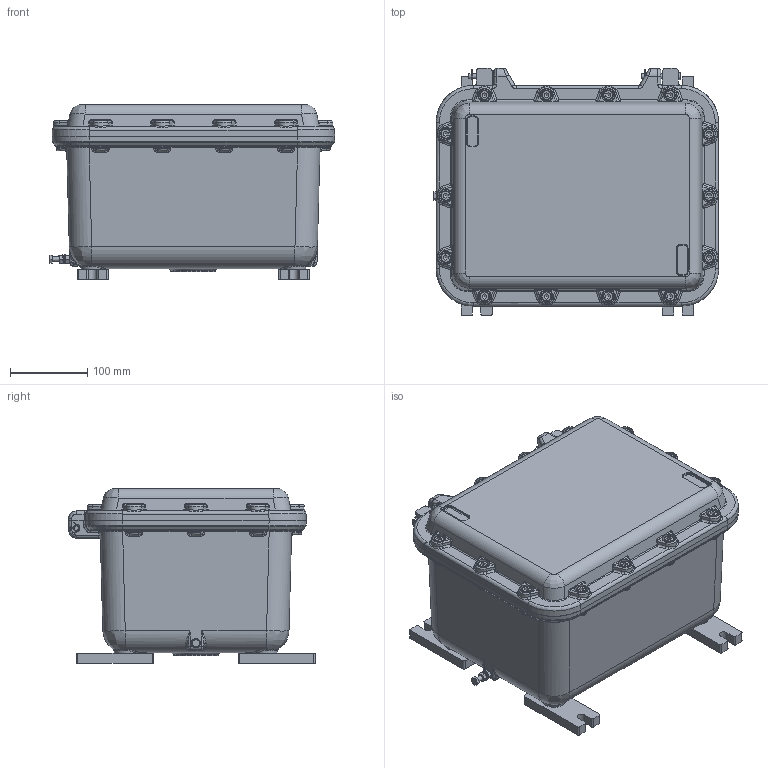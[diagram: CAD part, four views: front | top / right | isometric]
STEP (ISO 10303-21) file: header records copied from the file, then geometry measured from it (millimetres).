
FILE_DESCRIPTION(('STEP AP214'), '1');
FILE_NAME('ﾑﾌﾄ 346400 339 000 _ ﾊﾂﾌﾊ 362821 Exd (ﾂ2, ﾂ06)', '', ('UNSPECIFIED'), ('UNSPECIFIED'), 'ASCON STEP Converter 1.3', 'ASCON Math Kernel', '');
FILE_SCHEMA(('AUTOMOTIVE_DESIGN { 1 0 10303 214 3 1 1}'));
Length unit declared in the file: millimetre
Products named in the file (27): ﾑﾌﾄ 346400 339 000 ﾑﾁ; ﾑﾌﾄ 346400 339 001; ﾑﾌﾄ 346400 339 002; ﾑﾌﾄ 346400 339 004; ﾑﾌﾄ 346400 339 003
Assembly tree (82 placements, depth 2):
  ﾑﾌﾄ 346400 339 000 ﾑﾁ
    ﾑﾌﾄ 346400 339 001
    ﾑﾌﾄ 346400 339 002
    (unnamed)  x8
    (unnamed)  x2
    (unnamed)  x2
    (unnamed)  x2
    (unnamed)
    (unnamed)  x2
    (unnamed)  x14
    (unnamed)  x14
    (unnamed)  x14
    ﾑﾌﾄ 346400 339 004  x2
    ﾑﾌﾄ 346400 339 003  x4
    (unnamed)
    (unnamed)
    (unnamed)
    (unnamed)
    (unnamed)
    (unnamed)
    (unnamed)
    (unnamed)
    (unnamed)
    (unnamed)
    (unnamed)
    (unnamed)
    (unnamed)  x3
Bounding box: 368.53 x 319.05 x 226 mm (x, y, z)
Volume: 6170740.9 mm3; surface area: 1001463.7 mm2
Topology: 82 solids, 82 shells, 2907 faces, 7296 edges, 4619 vertices
Faces by surface type: plane 987, cone 753, cylinder 703, bspline 304, torus 160
Full cylindrical faces by diameter (mm): 3 x2, 3.3 x4, 4.134 x6, 4.917 x3, 5 x9, 5.5 x16, 6 x3, 6.4 x3, 6.6 x2, 6.647 x14, 7 x4, 8 x14, 8.376 x4, 9 x30, 9.2 x7, 10 x12, 10.5 x4, 11 x7, 12 x2, 13 x14, 16 x14, 17.5 x14, 18 x4, 20 x4, 58 x1
Entity records: 135752 total; most frequent: CARTESIAN_POINT 57131, ORIENTED_EDGE 11850, DIRECTION 11782, EDGE_CURVE 5925, AXIS2_PLACEMENT_3D 4603, VERTEX_POINT 3805, EDGE_LOOP 2710, LINE 2576
